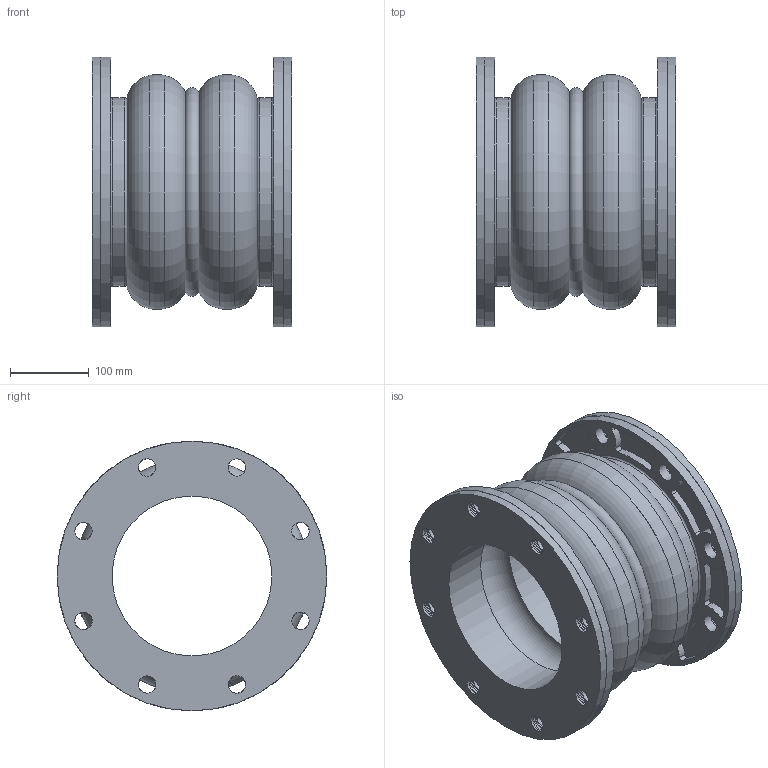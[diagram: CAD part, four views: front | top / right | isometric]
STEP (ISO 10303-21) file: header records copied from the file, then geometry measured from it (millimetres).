
FILE_DESCRIPTION((''),'2;1');
FILE_NAME('C:\2011_Work\Designs\Mercer\Stock Joints\450 Style\452\STEP\Style452 8x10.stp','2013-07-26T17:13:53',('mquog'),(''),'Autodesk Inventor 2011','Autodesk Inventor 2011','');
FILE_SCHEMA(('AUTOMOTIVE_DESIGN { 1 0 10303 214 1 1 1 1 }'));
Length unit declared in the file: inch
Products named in the file (4): Style452 8x10; 8DI450BUR150-1; 8_MBR; 452 8x10
Assembly tree (4 placements, depth 2):
  Style452 8x10
    8DI450BUR150-1  x2
    8_MBR
    452 8x10
Bounding box: 254 x 342.9 x 342.9 mm (x, y, z)
Volume: 6523751.3 mm3; surface area: 5000770.4 mm2
Topology: 36 solids, 36 shells, 483 faces, 1106 edges, 707 vertices
Faces by surface type: cylinder 304, torus 95, plane 84
Full cylindrical faces by diameter (mm): 22.225 x112, 203.2 x3, 209.55 x6, 215.9 x12, 219.964 x6, 224.028 x8, 227.012 x2, 227.203 x3, 234.95 x6, 239.712 x2, 336.55 x12, 342.9 x4
Entity records: 10654 total; most frequent: DIRECTION 1982, CARTESIAN_POINT 1578, ORIENTED_EDGE 1240, AXIS2_PLACEMENT_3D 959, EDGE_LOOP 933, EDGE_CURVE 620, CIRCLE 556, VERTEX_POINT 555
